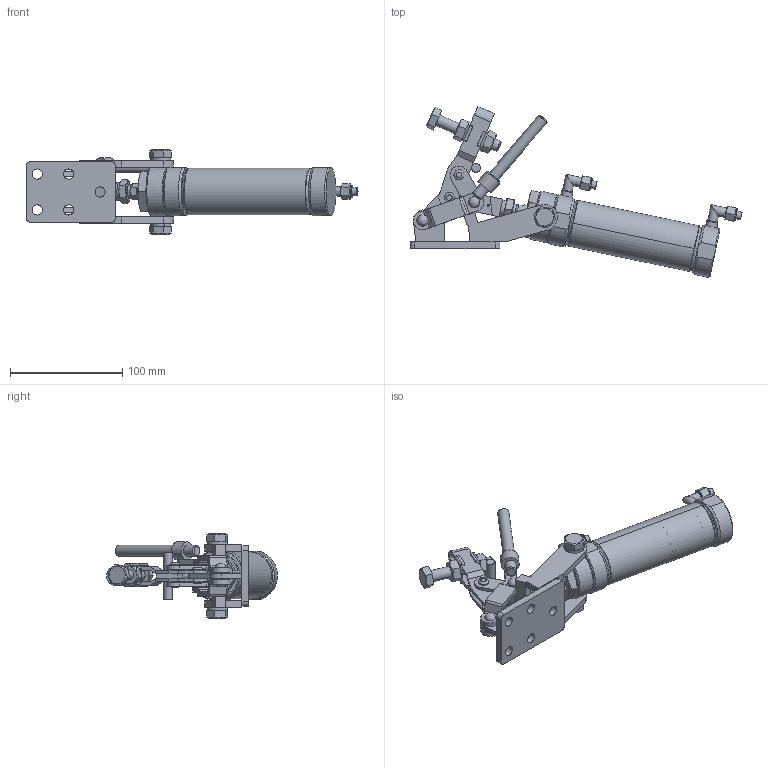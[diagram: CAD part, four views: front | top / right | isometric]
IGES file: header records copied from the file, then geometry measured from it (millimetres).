
Global section: file name: No.102V (ul); native system: Autodesk Inventor 2020; preprocessor: unknown; author: 高橋善宗,,11,0, ; organization: 20160316.042552; date: 20240415.152034; units: millimetre
Bounding box: 295.79 x 152.23 x 75.4 mm (x, y, z)
Volume: 271955.3 mm3; surface area: 135892.9 mm2
Topology: 33 solids, 33 shells, 536 faces, 1281 edges, 844 vertices
Faces by surface type: bspline 536
